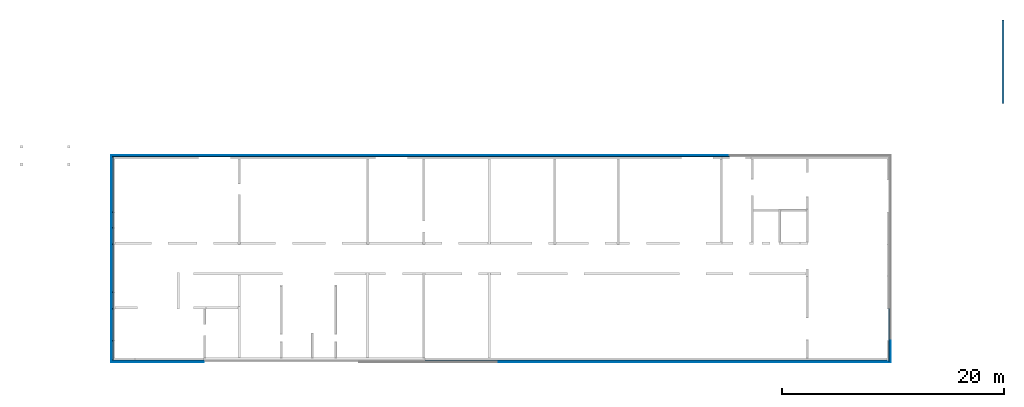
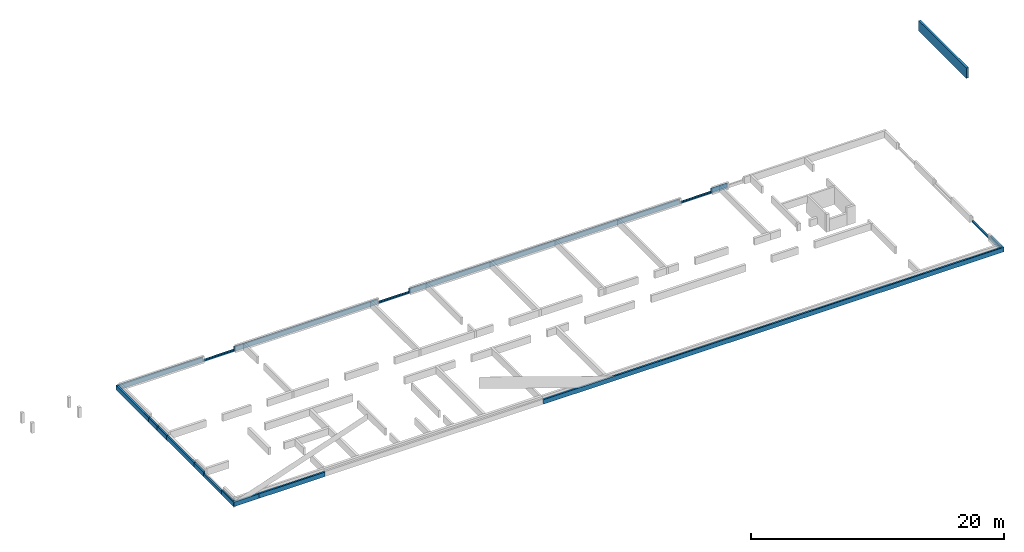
# One storey, part 6 of 7: 37 building element parts, 1 wall, 19 elements without a shape of their own.
"""IFC2X3 building model written with IfcOpenShell, lengths in millimetres."""

import ifcopenshell
import ifcopenshell.guid

model = None  # the IFC model being written
_history = None  # IfcOwnerHistory: only IFC2X3 demands one
_inside = {}  # id of a spatial element -> (the spatial element, [elements in it])
_under = {}  # id of a project, library or spatial element -> (it, [spatial elements below it])
_declared = {}  # id of a project -> (the project, [libraries it declares])
_typed = {}  # id of a type object -> (the type object, [elements of that type])
_made_of = {}  # id of a material, layer set ... -> (it, [elements and type objects made of it])


def new_model(schema):
    """Start an empty IFC model of exactly this schema.

    Asked for "IFC4X3", IfcOpenShell would pick the latest addendum, in which some entities
    have other attributes; the version numbers below select the first issue.
    IFC2X3 requires an IfcOwnerHistory on every rooted entity: one is made here for all.
    """
    global model, _history
    if schema == "IFC4X3":
        model = ifcopenshell.file(schema_version=(4, 3, 0, 0))
    else:
        model = ifcopenshell.file(schema=schema)
    _inside.clear()
    _under.clear()
    _declared.clear()
    _typed.clear()
    _made_of.clear()
    _history = None
    if model.schema == "IFC2X3":
        org = make("IfcOrganization", Name="unknown")
        user = make(
            "IfcPersonAndOrganization",
            ThePerson=make("IfcPerson", FamilyName="unknown"),
            TheOrganization=org,
        )
        app = make(
            "IfcApplication",
            ApplicationDeveloper=org,
            Version="unknown",
            ApplicationFullName="unknown",
            ApplicationIdentifier="unknown",
        )
        _history = make(
            "IfcOwnerHistory",
            OwningUser=user,
            OwningApplication=app,
            ChangeAction="ADDED",
            CreationDate=0,
        )
    return model


def make(cls, **values):
    """One entity of the class cls with the attributes given. An attribute that is None is left unset."""
    return model.create_entity(
        cls, **{name: value for name, value in values.items() if value is not None}
    )


def entity(cls, *values):
    """Any entity or typed value of the class cls, its attributes in the order of the schema. None: left unset."""
    e = model.create_entity(cls)
    for i, value in enumerate(values):
        if value is not None:
            e[i] = value
    return e


def rooted(cls, **values):
    """An entity with a GlobalId (a new one), such as an element, a storey or a relation."""
    return make(cls, GlobalId=ifcopenshell.guid.new(), OwnerHistory=_history, **values)


def si_unit(unit_type, name, prefix=None):
    """IfcSIUnit, for example si_unit("LENGTHUNIT", "METRE", prefix="MILLI")."""
    return make("IfcSIUnit", UnitType=unit_type, Prefix=prefix, Name=name)


def converted_unit(unit_type, name, factor, base, dimensions=None, offset=None):
    """IfcConversionBasedUnit, such as the inch: factor (a typed value) times the base unit."""
    return make(
        "IfcConversionBasedUnit"
        if offset is None
        else "IfcConversionBasedUnitWithOffset",
        ConversionOffset=offset,
        Dimensions=None
        if dimensions is None
        else entity("IfcDimensionalExponents", *dimensions),
        UnitType=unit_type,
        Name=name,
        ConversionFactor=make(
            "IfcMeasureWithUnit", ValueComponent=factor, UnitComponent=base
        ),
    )


def derived_unit(unit_type, elements):
    """IfcDerivedUnit: a product of units, each with its exponent."""
    return make(
        "IfcDerivedUnit",
        Elements=[
            make("IfcDerivedUnitElement", Unit=unit, Exponent=power)
            for unit, power in elements
        ],
        UnitType=unit_type,
    )


def money_unit(currency):
    """IfcMonetaryUnit."""
    return make("IfcMonetaryUnit", Currency=currency)


def assignment(units):
    """IfcUnitAssignment: the units of a project."""
    return None if units is None else make("IfcUnitAssignment", Units=units)


def point(xyz):
    """IfcCartesianPoint."""
    return None if xyz is None else make("IfcCartesianPoint", Coordinates=xyz)


def direction(xyz):
    """IfcDirection."""
    return None if xyz is None else make("IfcDirection", DirectionRatios=xyz)


def frame(location, z_axis=None, x_axis=None):
    """IfcAxis2Placement3D, a coordinate frame: its origin and axes. An axis left out is left unset."""
    return make(
        "IfcAxis2Placement3D",
        Location=point(location),
        Axis=direction(z_axis),
        RefDirection=direction(x_axis),
    )


def origin_with_axes():
    """The frame at (0, 0, 0) with the z axis (0, 0, 1) and the x axis (1, 0, 0) written out."""
    return frame((0.0, 0.0, 0.0), z_axis=(0.0, 0.0, 1.0), x_axis=(1.0, 0.0, 0.0))


def place(relative_to, where):
    """IfcLocalPlacement: puts the frame where relative to a parent placement (None: the world)."""
    return make(
        "IfcLocalPlacement", PlacementRelTo=relative_to, RelativePlacement=where
    )


def context(
    kind, dimensions, precision=None, world=None, true_north=None, identifier=None
):
    """IfcGeometricRepresentationContext, for example the 3D "Model" context."""
    return make(
        "IfcGeometricRepresentationContext",
        ContextIdentifier=identifier,
        ContextType=kind,
        CoordinateSpaceDimension=dimensions,
        Precision=precision,
        WorldCoordinateSystem=world,
        TrueNorth=true_north,
    )


def subcontext(parent, identifier, kind, view, scale=None):
    """IfcGeometricRepresentationSubContext, for example "Body" below "Model"."""
    return make(
        "IfcGeometricRepresentationSubContext",
        ContextIdentifier=identifier,
        ContextType=kind,
        ParentContext=parent,
        TargetScale=scale,
        TargetView=view,
    )


def project(units=None, contexts=None):
    """IfcProject with its units and contexts."""
    return rooted(
        "IfcProject",
        Name="project",
        RepresentationContexts=contexts,
        UnitsInContext=assignment(units),
    )


def spatial(cls, under=None, at=None, **own):
    """A site, building, storey or space (cls), placed at a placement, below another one or the project."""
    s = rooted(cls, ObjectPlacement=at, **own)
    if under is not None:
        _under.setdefault(under.id(), (under, []))[1].append(s)
    return s


def faces_of(points, faces, orient=None, outer=None):
    """IfcFace entities. A face is a list of loops; a loop is a list of indices into points, from 0.

    orient and outer hold one flag for each loop. By default every Orientation is true, the
    first loop of a face is its IfcFaceOuterBound and the others are IfcFaceBound.
    """
    made = []
    for i, loops in enumerate(faces):
        bounds = []
        for j, loop in enumerate(loops):
            is_outer = j == 0 if outer is None else outer[i][j]
            bounds.append(
                make(
                    "IfcFaceOuterBound" if is_outer else "IfcFaceBound",
                    Bound=make("IfcPolyLoop", Polygon=[points[k] for k in loop]),
                    Orientation=True if orient is None else orient[i][j],
                )
            )
        made.append(make("IfcFace", Bounds=bounds))
    return made


def faceted_brep(points, faces, orient=None, outer=None, voids=None):
    """IfcFacetedBrep: a solid bounded by flat faces; with voids (closed shells), ...WithVoids."""
    shared = [point(p) for p in points]
    hull = make("IfcClosedShell", CfsFaces=faces_of(shared, faces, orient, outer))
    if voids is None:
        return make("IfcFacetedBrep", Outer=hull)
    return make(
        "IfcFacetedBrepWithVoids",
        Outer=hull,
        Voids=[
            make(cls, CfsFaces=faces_of(shared, fs, o, b)) for cls, fs, o, b in voids
        ],
    )


def shape(context_of_items, identifier, shape_type, items):
    """IfcShapeRepresentation: the items that make up one representation, for example the "Body"."""
    return make(
        "IfcShapeRepresentation",
        ContextOfItems=context_of_items,
        RepresentationIdentifier=identifier,
        RepresentationType=shape_type,
        Items=items,
    )


def material(Name=None, Category=None):
    """IfcMaterial."""
    return make("IfcMaterial", Name=Name, Category=Category)


def made_of(thing, what):
    """Note that an element or type object is made of a material, layer set ...; save() writes the relation."""
    if what is not None:
        _made_of.setdefault(what.id(), (what, []))[1].append(thing)
    return thing


def type_object(cls, material=None, **own):
    """A type object (cls), such as IfcWallType, which elements share."""
    return made_of(rooted(cls, **own), material)


def element(
    cls,
    number,
    at=None,
    inside=None,
    cuts=None,
    type_object=None,
    material=None,
    context=None,
    identifier="Body",
    shape_type=None,
    held_by="IfcProductDefinitionShape",
    body=None,
    shapes=None,
    **own,
):
    """One element of the class cls, such as IfcWall. Its Tag is "e" and its number.

    at: its placement. inside: the storey or other place that contains it. cuts: it is an
    opening in that element (IfcRelVoidsElement). A single representation is given by context,
    identifier, shape_type and body (its items); several are given by shapes. held_by: the class
    of the entity that holds the representations. save() writes the other relations.
    """
    e = rooted(cls, Tag="e%d" % number, ObjectPlacement=at, **own)
    if body is not None:
        shapes = [shape(context, identifier, shape_type, body)]
    if shapes is not None:
        e.Representation = make(held_by, Representations=shapes)
    if inside is not None:
        _inside.setdefault(inside.id(), (inside, []))[1].append(e)
    if cuts is not None:
        rooted(
            "IfcRelVoidsElement", RelatingBuildingElement=cuts, RelatedOpeningElement=e
        )
    if type_object is not None:
        _typed.setdefault(type_object.id(), (type_object, []))[1].append(e)
    return made_of(e, material)


def aggregate(whole, parts):
    """IfcRelAggregates: a whole, such as a stair, and the parts it consists of."""
    return rooted("IfcRelAggregates", RelatingObject=whole, RelatedObjects=parts)


def save(model, path):
    """Write the relations noted so far, then the file.

    IfcRelAggregates (storeys below a building ...), IfcRelContainedInSpatialStructure (elements
    in a storey), IfcRelDefinesByType, IfcRelAssociatesMaterial and IfcRelDeclares: one each for
    every whole, place, type object, material and project.
    """
    for whole, parts in _under.values():
        aggregate(whole, parts)
    for where, things in _inside.values():
        rooted(
            "IfcRelContainedInSpatialStructure",
            RelatedElements=things,
            RelatingStructure=where,
        )
    for kind, things in _typed.values():
        rooted("IfcRelDefinesByType", RelatedObjects=things, RelatingType=kind)
    for what, things in _made_of.values():
        rooted("IfcRelAssociatesMaterial", RelatedObjects=things, RelatingMaterial=what)
    for by, libraries in _declared.values():
        rooted("IfcRelDeclares", RelatingContext=by, RelatedDefinitions=libraries)
    model.write(path)


model = new_model("IFC2X3")

# Units and contexts
model_context = context("Model", 3, precision=0.01, world=origin_with_axes(), true_north=direction((0.0, 1.0)))
body_context = subcontext(model_context, "Body", "Model", "MODEL_VIEW")
ifc_project = project(units=[si_unit("LENGTHUNIT", "METRE", prefix="MILLI"), si_unit("AREAUNIT", "SQUARE_METRE"), si_unit("VOLUMEUNIT", "CUBIC_METRE"), converted_unit("PLANEANGLEUNIT", "DEGREE", entity("IfcPlaneAngleMeasure", 0.0174532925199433), si_unit("PLANEANGLEUNIT", "RADIAN"), dimensions=[0, 0, 0, 0, 0, 0, 0]), money_unit("EUR"), converted_unit("TIMEUNIT", "Year", entity("IfcTimeMeasure", 31556926.0), si_unit("TIMEUNIT", "SECOND"), dimensions=[0, 0, 1, 0, 0, 0, 0]), si_unit("MASSUNIT", "GRAM", prefix="KILO"), si_unit("THERMODYNAMICTEMPERATUREUNIT", "DEGREE_CELSIUS"), si_unit("LUMINOUSINTENSITYUNIT", "LUMEN"), si_unit("ENERGYUNIT", "JOULE", prefix="MEGA"), derived_unit("THERMALCONDUCTANCEUNIT", [(si_unit("POWERUNIT", "WATT"), 1), (si_unit("LENGTHUNIT", "METRE"), -1), (si_unit("THERMODYNAMICTEMPERATUREUNIT", "KELVIN"), -1)]), derived_unit("SPECIFICHEATCAPACITYUNIT", [(si_unit("ENERGYUNIT", "JOULE"), 1), (si_unit("MASSUNIT", "GRAM", prefix="KILO"), -1), (si_unit("THERMODYNAMICTEMPERATUREUNIT", "KELVIN"), -1)]), derived_unit("MASSDENSITYUNIT", [(si_unit("MASSUNIT", "GRAM", prefix="KILO"), 1), (si_unit("VOLUMEUNIT", "CUBIC_METRE"), -1)])], contexts=[model_context])

# Site, building, storey
site_placement = place(None, origin_with_axes())
site = spatial("IfcSite", under=ifc_project, at=site_placement, Name="ÜBN Kinnistu Nimi -> SOLIBRI", CompositionType="ELEMENT")
building_placement = place(site_placement, origin_with_axes())
building = spatial("IfcBuilding", under=site, at=building_placement, Name="METK ARETUSKESKUS II", CompositionType="ELEMENT")
storey_placement = place(building_placement, frame((0.0, 0.0, -1610.0), z_axis=(0.0, 0.0, 1.0), x_axis=(1.0, 0.0, 0.0)))
storey = spatial("IfcBuildingStorey", under=building, at=storey_placement, Name="Vundament", CompositionType="ELEMENT", Elevation=-1610.0)

# Wall
ifc_material_1 = material(Name="30 Konst: Raudbetoon monoliitne")
wall_type_1 = type_object("IfcWallType", Name="VS-10 190", PredefinedType="NOTDEFINED")
wall_1_placement = place(storey_placement, frame((100030.0033848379, 42969.99438087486, 410.0000000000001), z_axis=(0.0, 0.0, 1.0), x_axis=(0.0, 1.0, 0.0)))
element("IfcWall", 1, at=wall_1_placement, inside=storey, type_object=wall_type_1, material=ifc_material_1, Name="VS-10", context=body_context, shape_type="Brep", body=[
    faceted_brep([(0.0, 94.99999999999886, 1000.0), (0.0, -94.99999999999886, 1000.0), (7535.004241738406, -94.99999999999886, 1000.0), (7535.004241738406, 94.99999999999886, 1000.0), (0.0, 94.99999999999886, 0.0), (0.0, -94.99999999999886, 0.0), (7535.004241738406, -94.99999999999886, 0.0), (7535.004241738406, 94.99999999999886, 0.0)], [[[0, 1, 2, 3]], [[0, 4, 5, 1]], [[1, 5, 6, 2]], [[6, 7, 3, 2]], [[4, 0, 3, 7]], [[5, 4, 7, 6]]]),
])

# Wall, building element parts
wall_type_2 = type_object("IfcWallType", Name="VS-02_KURMIK 160", PredefinedType="NOTDEFINED")
wall_2_placement = place(storey_placement, frame((19840.00000000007, 24480.0000000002, 1330.0), z_axis=(0.0, 0.0, 1.0), x_axis=(0.0, -1.0, 0.0)))
wall_2 = element("IfcWall", 2, at=wall_2_placement, inside=storey, type_object=wall_type_2, Name="VS-02")
ifc_material_2 = material(Name="50 Soojustus: EPS")
building_element_part_1_placement = place(wall_2_placement, origin_with_axes())
building_element_part_1 = element("IfcBuildingElementPart", 3, at=building_element_part_1_placement, material=ifc_material_2, Name="50 Soojustus: EPS", context=body_context, shape_type="Brep", body=[
    faceted_brep([(2860.0, 0.0, 0.0), (2860.0, -150.0000000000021, 0.0), (0.0, -149.9999999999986, 0.0), (0.0, 0.0, 0.0), (2860.0, 0.0, 280.0), (2860.0, -149.9999999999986, 280.0), (0.0, -149.9999999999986, 280.0), (0.0, 0.0, 280.0)], [[[0, 1, 2, 3]], [[0, 4, 5, 1]], [[1, 5, 6, 2]], [[3, 2, 6, 7]], [[4, 0, 3, 7]], [[5, 4, 7, 6]]]),
])
ifc_material_3 = material(Name="92 Viim: betoonlasuur")
building_element_part_2_placement = place(wall_2_placement, origin_with_axes())
building_element_part_2 = element("IfcBuildingElementPart", 4, at=building_element_part_2_placement, material=ifc_material_3, Name="92 Viim: betoonlasuur", context=body_context, shape_type="Brep", body=[
    faceted_brep([(2860.0, -150.0000000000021, 0.0), (2860.0, -160.0000000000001, 0.0), (0.0, -160.0000000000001, 0.0), (0.0, -149.9999999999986, 0.0), (2860.0, -149.9999999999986, 280.0), (2860.0, -160.0000000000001, 280.0), (0.0, -160.0000000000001, 280.0), (0.0, -149.9999999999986, 280.0)], [[[0, 1, 2, 3]], [[0, 4, 5, 1]], [[1, 5, 6, 2]], [[3, 2, 6, 7]], [[4, 0, 3, 7]], [[5, 4, 7, 6]]]),
])
aggregate(wall_2, [building_element_part_1, building_element_part_2])

wall_3_placement = place(storey_placement, frame((19840.00000000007, 38160.00000699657, 1330.0), z_axis=(0.0, 0.0, 1.0), x_axis=(0.0, -1.0, 0.0)))
wall_3 = element("IfcWall", 5, at=wall_3_placement, inside=storey, type_object=wall_type_2, Name="VS-02")
building_element_part_3_placement = place(wall_3_placement, origin_with_axes())
building_element_part_3 = element("IfcBuildingElementPart", 6, at=building_element_part_3_placement, material=ifc_material_2, Name="50 Soojustus: EPS", context=body_context, shape_type="Brep", body=[
    faceted_brep([(4979.999946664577, 0.0, 0.0), (4979.999946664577, -150.0000000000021, 0.0), (0.0, -149.9999999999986, 0.0), (0.0, 0.0, 0.0), (4979.999946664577, 0.0, 435.0004703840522), (4979.999946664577, -150.0000000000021, 435.0004703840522), (0.0, -149.9999999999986, 435.0004703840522), (0.0, 0.0, 435.0004703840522)], [[[0, 1, 2, 3]], [[0, 4, 5, 1]], [[1, 5, 6, 2]], [[3, 2, 6, 7]], [[4, 0, 3, 7]], [[5, 4, 7, 6]]]),
])
building_element_part_4_placement = place(wall_3_placement, origin_with_axes())
building_element_part_4 = element("IfcBuildingElementPart", 7, at=building_element_part_4_placement, material=ifc_material_3, Name="92 Viim: betoonlasuur", context=body_context, shape_type="Brep", body=[
    faceted_brep([(4979.999946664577, -150.0000000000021, 0.0), (4979.999946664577, -160.0000000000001, 0.0), (-149.9999999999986, -160.0000000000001, 0.0), (-149.9999999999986, -149.9999999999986, 0.0), (4979.999946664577, -150.0000000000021, 435.0004703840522), (4979.999946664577, -160.0000000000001, 435.0004703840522), (-149.9999999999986, -160.0000000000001, 435.0004703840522), (-149.9999999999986, -149.9999999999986, 435.0004703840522)], [[[0, 1, 2, 3]], [[0, 4, 5, 1]], [[1, 5, 6, 2]], [[3, 2, 6, 7]], [[4, 0, 3, 7]], [[5, 4, 7, 6]]]),
])
aggregate(wall_3, [building_element_part_3, building_element_part_4])

wall_4_placement = place(storey_placement, frame((19840.00000000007, 30279.99997727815, 1330.0), z_axis=(0.0, 0.0, 1.0), x_axis=(0.0, -1.0, 0.0)))
wall_4 = element("IfcWall", 8, at=wall_4_placement, inside=storey, type_object=wall_type_2, Name="VS-02")
building_element_part_5_placement = place(wall_4_placement, origin_with_axes())
building_element_part_5 = element("IfcBuildingElementPart", 9, at=building_element_part_5_placement, material=ifc_material_3, Name="92 Viim: betoonlasuur", context=body_context, shape_type="Brep", body=[
    faceted_brep([(4309.999999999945, -150.0000000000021, 0.0), (4309.999999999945, -160.0000000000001, 0.0), (0.0, -160.0000000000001, 0.0), (0.0, -149.9999999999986, 0.0), (4309.999999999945, -150.0000000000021, 435.0004703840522), (4309.999999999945, -160.0000000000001, 435.0004703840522), (0.0, -160.0000000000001, 435.0004703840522), (0.0, -149.9999999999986, 435.0004703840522)], [[[0, 1, 2, 3]], [[0, 4, 5, 1]], [[1, 5, 6, 2]], [[3, 2, 6, 7]], [[4, 0, 3, 7]], [[5, 4, 7, 6]]]),
])
building_element_part_6_placement = place(wall_4_placement, origin_with_axes())
building_element_part_6 = element("IfcBuildingElementPart", 10, at=building_element_part_6_placement, material=ifc_material_2, Name="50 Soojustus: EPS", context=body_context, shape_type="Brep", body=[
    faceted_brep([(4309.999999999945, 0.0, 0.0), (4309.999999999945, -150.0000000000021, 0.0), (0.0, -149.9999999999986, 0.0), (0.0, 0.0, 0.0), (4309.999999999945, 0.0, 435.0004703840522), (4309.999999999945, -150.0000000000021, 435.0004703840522), (0.0, -149.9999999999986, 435.0004703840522), (0.0, 0.0, 435.0004703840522)], [[[0, 1, 2, 3]], [[0, 4, 5, 1]], [[1, 5, 6, 2]], [[3, 2, 6, 7]], [[4, 0, 3, 7]], [[5, 4, 7, 6]]]),
])
aggregate(wall_4, [building_element_part_5, building_element_part_6])

wall_5_placement = place(storey_placement, frame((19840.00000000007, 21620.0000000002, 1330.0), z_axis=(0.0, 0.0, 1.0), x_axis=(0.0, -1.0, 0.0)))
wall_5 = element("IfcWall", 11, at=wall_5_placement, inside=storey, type_object=wall_type_2, Name="VS-02")
building_element_part_7_placement = place(wall_5_placement, origin_with_axes())
building_element_part_7 = element("IfcBuildingElementPart", 12, at=building_element_part_7_placement, material=ifc_material_3, Name="92 Viim: betoonlasuur", context=body_context, shape_type="Brep", body=[
    faceted_brep([(1930.000000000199, -160.0000000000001, 0.0), (0.0, -160.0000000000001, 0.0), (0.0, -149.9999999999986, 0.0), (1930.000000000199, -149.9999999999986, 0.0), (1930.000000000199, -160.0000000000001, 435.0004703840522), (0.0, -160.0000000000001, 435.0004703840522), (0.0, -149.9999999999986, 435.0004703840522), (1930.000000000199, -149.9999999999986, 435.0004703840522)], [[[0, 1, 2, 3]], [[4, 5, 1, 0]], [[2, 1, 5, 6]], [[3, 2, 6, 7]], [[3, 7, 4, 0]], [[7, 6, 5, 4]]]),
])
building_element_part_8_placement = place(wall_5_placement, origin_with_axes())
building_element_part_8 = element("IfcBuildingElementPart", 13, at=building_element_part_8_placement, material=ifc_material_2, Name="50 Soojustus: EPS", context=body_context, shape_type="Brep", body=[
    faceted_brep([(1780.0000000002, -149.9999999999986, 0.0), (0.0, -149.9999999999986, 0.0), (0.0, 0.0, 0.0), (1780.0000000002, 0.0, 0.0), (1780.0000000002, -149.9999999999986, 435.0004703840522), (0.0, -149.9999999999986, 435.0004703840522), (0.0, 0.0, 435.0004703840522), (1780.0000000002, 0.0, 435.0004703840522)], [[[0, 1, 2, 3]], [[4, 5, 1, 0]], [[2, 1, 5, 6]], [[3, 2, 6, 7]], [[3, 7, 4, 0]], [[7, 6, 5, 4]]]),
])
aggregate(wall_5, [building_element_part_7, building_element_part_8])

wall_6_placement = place(storey_placement, frame((47940.00000288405, 19840.0, 1330.0), z_axis=(0.0, 0.0, 1.0), x_axis=(1.0, 0.0, 0.0)))
wall_6 = element("IfcWall", 14, at=wall_6_placement, inside=storey, type_object=wall_type_2, Name="VS-02")
building_element_part_9_placement = place(wall_6_placement, origin_with_axes())
building_element_part_9 = element("IfcBuildingElementPart", 15, at=building_element_part_9_placement, material=ifc_material_2, Name="50 Soojustus: EPS", context=body_context, shape_type="Brep", body=[
    faceted_brep([(41819.99990995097, -149.9999999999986, 0.0), (0.0, -149.9999999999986, 0.0), (0.0, 0.0, 0.0), (41819.99990995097, 0.0, 0.0), (41819.99990995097, -149.9999999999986, 435.0004703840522), (0.0, -149.9999999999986, 435.0004703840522), (0.0, 0.0, 435.0004703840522), (41819.99990995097, 0.0, 435.0004703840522)], [[[0, 1, 2, 3]], [[4, 5, 1, 0]], [[2, 1, 5, 6]], [[3, 2, 6, 7]], [[3, 7, 4, 0]], [[7, 6, 5, 4]]]),
])
building_element_part_10_placement = place(wall_6_placement, origin_with_axes())
building_element_part_10 = element("IfcBuildingElementPart", 16, at=building_element_part_10_placement, material=ifc_material_3, Name="92 Viim: betoonlasuur", context=body_context, shape_type="Brep", body=[
    faceted_brep([(41969.99990995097, -159.9999999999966, 0.0), (0.0, -160.0000000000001, 0.0), (0.0, -149.9999999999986, 0.0), (41969.99990995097, -149.9999999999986, 0.0), (41969.99990995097, -159.9999999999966, 435.0004703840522), (0.0, -160.0000000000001, 435.0004703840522), (0.0, -149.9999999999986, 435.0004703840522), (41969.99990995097, -149.9999999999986, 435.0004703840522)], [[[0, 1, 2, 3]], [[4, 5, 1, 0]], [[2, 1, 5, 6]], [[3, 2, 6, 7]], [[3, 7, 4, 0]], [[7, 6, 5, 4]]]),
])
aggregate(wall_6, [building_element_part_9, building_element_part_10])

wall_7_placement = place(storey_placement, frame((73910.00689297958, 38160.00000699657, 1330.0), z_axis=(0.0, 0.0, 1.0), x_axis=(-1.0, 0.0, 0.0)))
wall_7 = element("IfcWall", 17, at=wall_7_placement, inside=storey, type_object=wall_type_2, Name="VS-02")
building_element_part_11_placement = place(wall_7_placement, origin_with_axes())
building_element_part_11 = element("IfcBuildingElementPart", 18, at=building_element_part_11_placement, material=ifc_material_2, Name="50 Soojustus: EPS", context=body_context, shape_type="Brep", body=[
    faceted_brep([(2860.006892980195, 0.0, 0.0), (2860.006892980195, -149.9999999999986, 0.0), (0.0, -149.9999999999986, 0.0), (0.0, 0.0, 0.0), (2860.006892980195, 0.0, 129.9999999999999), (2860.006892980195, -149.9999999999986, 129.9999999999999), (0.0, -149.9999999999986, 129.9999999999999), (0.0, 0.0, 129.9999999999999)], [[[0, 1, 2, 3]], [[0, 4, 5, 1]], [[1, 5, 6, 2]], [[3, 2, 6, 7]], [[4, 0, 3, 7]], [[5, 4, 7, 6]]]),
])
building_element_part_12_placement = place(wall_7_placement, origin_with_axes())
building_element_part_12 = element("IfcBuildingElementPart", 19, at=building_element_part_12_placement, material=ifc_material_3, Name="92 Viim: betoonlasuur", context=body_context, shape_type="Brep", body=[
    faceted_brep([(2860.006892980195, -149.9999999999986, 0.0), (2860.006892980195, -160.0000000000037, 0.0), (0.0, -159.9999999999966, 0.0), (0.0, -149.9999999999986, 0.0), (2860.006892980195, -149.9999999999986, 129.9999999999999), (2860.006892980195, -160.0000000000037, 129.9999999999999), (0.0, -159.9999999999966, 129.9999999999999), (0.0, -149.9999999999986, 129.9999999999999)], [[[0, 1, 2, 3]], [[0, 4, 5, 1]], [[1, 5, 6, 2]], [[3, 2, 6, 7]], [[4, 0, 3, 7]], [[5, 4, 7, 6]]]),
])
aggregate(wall_7, [building_element_part_11, building_element_part_12])

wall_8_placement = place(storey_placement, frame((22000.0, 19840.0, 1330.0), z_axis=(0.0, 0.0, 1.0), x_axis=(1.0, 0.0, 0.0)))
wall_8 = element("IfcWall", 20, at=wall_8_placement, inside=storey, type_object=wall_type_2, Name="VS-02")
building_element_part_13_placement = place(wall_8_placement, origin_with_axes())
building_element_part_13 = element("IfcBuildingElementPart", 21, at=building_element_part_13_placement, material=ifc_material_2, Name="50 Soojustus: EPS", context=body_context, shape_type="Brep", body=[
    faceted_brep([(6010.000001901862, 0.0, 0.0), (6010.000001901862, -149.9999999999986, 0.0), (0.0, -149.9999999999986, 0.0), (0.0, 0.0, 0.0), (6010.000001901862, 0.0, 435.0004703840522), (6010.000001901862, -149.9999999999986, 435.0004703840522), (0.0, -149.9999999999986, 435.0004703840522), (0.0, 0.0, 435.0004703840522)], [[[0, 1, 2, 3]], [[0, 4, 5, 1]], [[1, 5, 6, 2]], [[3, 2, 6, 7]], [[4, 0, 3, 7]], [[5, 4, 7, 6]]]),
])
building_element_part_14_placement = place(wall_8_placement, origin_with_axes())
building_element_part_14 = element("IfcBuildingElementPart", 22, at=building_element_part_14_placement, material=ifc_material_3, Name="92 Viim: betoonlasuur", context=body_context, shape_type="Brep", body=[
    faceted_brep([(6010.000001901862, -149.9999999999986, 0.0), (6010.000001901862, -160.0000000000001, 0.0), (0.0, -160.0000000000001, 0.0), (0.0, -149.9999999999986, 0.0), (6010.000001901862, -149.9999999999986, 435.0004703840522), (6010.000001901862, -160.0000000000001, 435.0004703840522), (0.0, -160.0000000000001, 435.0004703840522), (0.0, -149.9999999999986, 435.0004703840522)], [[[0, 1, 2, 3]], [[0, 4, 5, 1]], [[1, 5, 6, 2]], [[3, 2, 6, 7]], [[4, 0, 3, 7]], [[5, 4, 7, 6]]]),
])
aggregate(wall_8, [building_element_part_13, building_element_part_14])

wall_9_placement = place(storey_placement, frame((19840.00000000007, 31770.13961946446, 1330.0), z_axis=(0.0, 0.0, 1.0), x_axis=(0.0, -1.0, 0.0)))
wall_9 = element("IfcWall", 23, at=wall_9_placement, inside=storey, type_object=wall_type_2, Name="VS-02")
building_element_part_15_placement = place(wall_9_placement, origin_with_axes())
building_element_part_15 = element("IfcBuildingElementPart", 24, at=building_element_part_15_placement, material=ifc_material_2, Name="50 Soojustus: EPS", context=body_context, shape_type="Brep", body=[
    faceted_brep([(1490.139642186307, 0.0, 0.0), (1490.139642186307, -149.9999999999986, 0.0), (0.0, -149.9999999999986, 0.0), (0.0, 0.0, 0.0), (1490.139642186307, 0.0, 435.0004703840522), (1490.139642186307, -149.9999999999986, 435.0004703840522), (0.0, -149.9999999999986, 435.0004703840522), (0.0, 0.0, 435.0004703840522)], [[[0, 1, 2, 3]], [[0, 4, 5, 1]], [[1, 5, 6, 2]], [[3, 2, 6, 7]], [[4, 0, 3, 7]], [[5, 4, 7, 6]]]),
])
building_element_part_16_placement = place(wall_9_placement, origin_with_axes())
building_element_part_16 = element("IfcBuildingElementPart", 25, at=building_element_part_16_placement, material=ifc_material_3, Name="92 Viim: betoonlasuur", context=body_context, shape_type="Brep", body=[
    faceted_brep([(1490.139642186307, -149.9999999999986, 0.0), (1490.139642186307, -160.0000000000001, 0.0), (0.0, -160.0000000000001, 0.0), (0.0, -149.9999999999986, 0.0), (1490.139642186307, -149.9999999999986, 435.0004703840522), (1490.139642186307, -160.0000000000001, 435.0004703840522), (0.0, -160.0000000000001, 435.0004703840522), (0.0, -149.9999999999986, 435.0004703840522)], [[[0, 1, 2, 3]], [[0, 4, 5, 1]], [[1, 5, 6, 2]], [[3, 2, 6, 7]], [[4, 0, 3, 7]], [[5, 4, 7, 6]]]),
])
aggregate(wall_9, [building_element_part_15, building_element_part_16])

wall_10_placement = place(storey_placement, frame((46360.00690052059, 38160.00000699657, 1330.0), z_axis=(0.0, 0.0, 1.0), x_axis=(-1.0, 0.0, 0.0)))
wall_10 = element("IfcWall", 26, at=wall_10_placement, inside=storey, type_object=wall_type_2, Name="VS-02")
building_element_part_17_placement = place(wall_10_placement, origin_with_axes())
building_element_part_17 = element("IfcBuildingElementPart", 27, at=building_element_part_17_placement, material=ifc_material_2, Name="50 Soojustus: EPS", context=body_context, shape_type="Brep", body=[
    faceted_brep([(2860.000000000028, 0.0, 0.0), (2860.000000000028, -149.9999999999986, 0.0), (0.0, -149.9999999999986, 0.0), (0.0, 0.0, 0.0), (2860.000000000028, 0.0, 129.9999999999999), (2860.000000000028, -149.9999999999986, 129.9999999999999), (0.0, -149.9999999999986, 129.9999999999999), (0.0, 0.0, 129.9999999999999)], [[[0, 1, 2, 3]], [[0, 4, 5, 1]], [[1, 5, 6, 2]], [[3, 2, 6, 7]], [[4, 0, 3, 7]], [[5, 4, 7, 6]]]),
])
building_element_part_18_placement = place(wall_10_placement, origin_with_axes())
building_element_part_18 = element("IfcBuildingElementPart", 28, at=building_element_part_18_placement, material=ifc_material_3, Name="92 Viim: betoonlasuur", context=body_context, shape_type="Brep", body=[
    faceted_brep([(2860.000000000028, -149.9999999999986, 0.0), (2860.000000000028, -160.0000000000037, 0.0), (0.0, -159.9999999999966, 0.0), (0.0, -149.9999999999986, 0.0), (2860.000000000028, -149.9999999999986, 129.9999999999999), (2860.000000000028, -160.0000000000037, 129.9999999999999), (0.0, -159.9999999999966, 129.9999999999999), (0.0, -149.9999999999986, 129.9999999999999)], [[[0, 1, 2, 3]], [[0, 4, 5, 1]], [[1, 5, 6, 2]], [[3, 2, 6, 7]], [[4, 0, 3, 7]], [[5, 4, 7, 6]]]),
])
aggregate(wall_10, [building_element_part_17, building_element_part_18])

wall_11_placement = place(storey_placement, frame((43500.00690052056, 38160.00000699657, 1330.0), z_axis=(0.0, 0.0, 1.0), x_axis=(-1.0, 0.0, 0.0)))
wall_11 = element("IfcWall", 29, at=wall_11_placement, inside=storey, type_object=wall_type_2, Name="VS-02")
building_element_part_19_placement = place(wall_11_placement, origin_with_axes())
building_element_part_19 = element("IfcBuildingElementPart", 30, at=building_element_part_19_placement, material=ifc_material_2, Name="50 Soojustus: EPS", context=body_context, shape_type="Brep", body=[
    faceted_brep([(13090.00690052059, 0.0, 0.0), (13090.00690052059, -149.9999999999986, 0.0), (0.0, -149.9999999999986, 0.0), (0.0, 0.0, 0.0), (13090.00690052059, 0.0, 435.0004703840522), (13090.00690052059, -149.9999999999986, 435.0004703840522), (0.0, -149.9999999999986, 435.0004703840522), (0.0, 0.0, 435.0004703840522)], [[[0, 1, 2, 3]], [[0, 4, 5, 1]], [[1, 5, 6, 2]], [[3, 2, 6, 7]], [[4, 0, 3, 7]], [[5, 4, 7, 6]]]),
])
building_element_part_20_placement = place(wall_11_placement, origin_with_axes())
building_element_part_20 = element("IfcBuildingElementPart", 31, at=building_element_part_20_placement, material=ifc_material_3, Name="92 Viim: betoonlasuur", context=body_context, shape_type="Brep", body=[
    faceted_brep([(13090.00690052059, -149.9999999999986, 0.0), (13090.00690052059, -160.0000000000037, 0.0), (0.0, -159.9999999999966, 0.0), (0.0, -149.9999999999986, 0.0), (13090.00690052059, -149.9999999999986, 435.0004703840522), (13090.00690052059, -160.0000000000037, 435.0004703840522), (0.0, -159.9999999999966, 435.0004703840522), (0.0, -149.9999999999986, 435.0004703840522)], [[[0, 1, 2, 3]], [[0, 4, 5, 1]], [[1, 5, 6, 2]], [[3, 2, 6, 7]], [[4, 0, 3, 7]], [[5, 4, 7, 6]]]),
])
aggregate(wall_11, [building_element_part_19, building_element_part_20])

wall_12_placement = place(storey_placement, frame((71049.99999999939, 38160.00000699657, 1330.0), z_axis=(0.0, 0.0, 1.0), x_axis=(-1.0, 0.0, 0.0)))
wall_12 = element("IfcWall", 32, at=wall_12_placement, inside=storey, type_object=wall_type_2, Name="VS-02")
building_element_part_21_placement = place(wall_12_placement, origin_with_axes())
building_element_part_21 = element("IfcBuildingElementPart", 33, at=building_element_part_21_placement, material=ifc_material_3, Name="92 Viim: betoonlasuur", context=body_context, shape_type="Brep", body=[
    faceted_brep([(24689.9930994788, -149.9999999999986, 0.0), (24689.9930994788, -160.0000000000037, 0.0), (0.0, -159.9999999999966, 0.0), (0.0, -149.9999999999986, 0.0), (24689.9930994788, -149.9999999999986, 435.0004703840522), (24689.9930994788, -160.0000000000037, 435.0004703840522), (0.0, -159.9999999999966, 435.0004703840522), (0.0, -149.9999999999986, 435.0004703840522)], [[[0, 1, 2, 3]], [[0, 4, 5, 1]], [[1, 5, 6, 2]], [[3, 2, 6, 7]], [[4, 0, 3, 7]], [[5, 4, 7, 6]]]),
])
building_element_part_22_placement = place(wall_12_placement, origin_with_axes())
building_element_part_22 = element("IfcBuildingElementPart", 34, at=building_element_part_22_placement, material=ifc_material_2, Name="50 Soojustus: EPS", context=body_context, shape_type="Brep", body=[
    faceted_brep([(24689.9930994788, 0.0, 0.0), (24689.9930994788, -149.9999999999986, 0.0), (0.0, -149.9999999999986, 0.0), (0.0, 0.0, 0.0), (24689.9930994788, 0.0, 435.0004703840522), (24689.9930994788, -149.9999999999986, 435.0004703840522), (0.0, -149.9999999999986, 435.0004703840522), (0.0, 0.0, 435.0004703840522)], [[[0, 1, 2, 3]], [[0, 4, 5, 1]], [[1, 5, 6, 2]], [[3, 2, 6, 7]], [[4, 0, 3, 7]], [[5, 4, 7, 6]]]),
])
aggregate(wall_12, [building_element_part_21, building_element_part_22])

wall_13_placement = place(storey_placement, frame((19840.00000000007, 25969.99997727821, 1330.0), z_axis=(0.0, 0.0, 1.0), x_axis=(0.0, -1.0, 0.0)))
wall_13 = element("IfcWall", 35, at=wall_13_placement, inside=storey, type_object=wall_type_2, Name="VS-02")
building_element_part_23_placement = place(wall_13_placement, origin_with_axes())
building_element_part_23 = element("IfcBuildingElementPart", 36, at=building_element_part_23_placement, material=ifc_material_2, Name="50 Soojustus: EPS", context=body_context, shape_type="Brep", body=[
    faceted_brep([(1489.999977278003, 0.0, 0.0), (1489.999977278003, -149.9999999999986, 0.0), (0.0, -149.9999999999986, 0.0), (0.0, 0.0, 0.0), (1489.999977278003, 0.0, 435.0004703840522), (1489.999977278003, -149.9999999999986, 435.0004703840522), (0.0, -149.9999999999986, 435.0004703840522), (0.0, 0.0, 435.0004703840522)], [[[0, 1, 2, 3]], [[0, 4, 5, 1]], [[1, 5, 6, 2]], [[3, 2, 6, 7]], [[4, 0, 3, 7]], [[5, 4, 7, 6]]]),
])
building_element_part_24_placement = place(wall_13_placement, origin_with_axes())
building_element_part_24 = element("IfcBuildingElementPart", 37, at=building_element_part_24_placement, material=ifc_material_3, Name="92 Viim: betoonlasuur", context=body_context, shape_type="Brep", body=[
    faceted_brep([(1489.999977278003, -149.9999999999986, 0.0), (1489.999977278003, -160.0000000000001, 0.0), (0.0, -160.0000000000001, 0.0), (0.0, -149.9999999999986, 0.0), (1489.999977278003, -149.9999999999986, 435.0004703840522), (1489.999977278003, -160.0000000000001, 435.0004703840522), (0.0, -160.0000000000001, 435.0004703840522), (0.0, -149.9999999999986, 435.0004703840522)], [[[0, 1, 2, 3]], [[0, 4, 5, 1]], [[1, 5, 6, 2]], [[3, 2, 6, 7]], [[4, 0, 3, 7]], [[5, 4, 7, 6]]]),
])
aggregate(wall_13, [building_element_part_23, building_element_part_24])

wall_14_placement = place(storey_placement, frame((75399.99999999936, 38160.00000699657, 1330.0), z_axis=(0.0, 0.0, 1.0), x_axis=(-1.0, 0.0, 0.0)))
wall_14 = element("IfcWall", 38, at=wall_14_placement, inside=storey, type_object=wall_type_2, Name="VS-02")
building_element_part_25_placement = place(wall_14_placement, origin_with_axes())
building_element_part_25 = element("IfcBuildingElementPart", 39, at=building_element_part_25_placement, material=ifc_material_2, Name="50 Soojustus: EPS", context=body_context, shape_type="Brep", body=[
    faceted_brep([(1489.993107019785, 0.0, 0.0), (1489.993107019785, -149.9999999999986, 0.0), (0.0, -149.9999999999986, 0.0), (0.0, 0.0, 0.0), (1489.993107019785, 0.0, 435.0004703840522), (1489.993107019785, -149.9999999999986, 435.0004703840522), (0.0, -149.9999999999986, 435.0004703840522), (0.0, 0.0, 435.0004703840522)], [[[0, 1, 2, 3]], [[0, 4, 5, 1]], [[1, 5, 6, 2]], [[3, 2, 6, 7]], [[4, 0, 3, 7]], [[5, 4, 7, 6]]]),
])
building_element_part_26_placement = place(wall_14_placement, origin_with_axes())
building_element_part_26 = element("IfcBuildingElementPart", 40, at=building_element_part_26_placement, material=ifc_material_3, Name="92 Viim: betoonlasuur", context=body_context, shape_type="Brep", body=[
    faceted_brep([(1489.993107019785, -149.9999999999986, 0.0), (1489.993107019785, -159.9999999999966, 0.0), (0.0, -159.9999999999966, 0.0), (0.0, -149.9999999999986, 0.0), (1489.993107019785, -149.9999999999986, 435.0004703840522), (1489.993107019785, -159.9999999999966, 435.0004703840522), (0.0, -159.9999999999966, 435.0004703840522), (0.0, -149.9999999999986, 435.0004703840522)], [[[0, 1, 2, 3]], [[0, 4, 5, 1]], [[1, 5, 6, 2]], [[3, 2, 6, 7]], [[4, 0, 3, 7]], [[5, 4, 7, 6]]]),
])
aggregate(wall_14, [building_element_part_25, building_element_part_26])

wall_15_placement = place(storey_placement, frame((30409.99999999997, 38160.00000699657, 1330.0), z_axis=(0.0, 0.0, 1.0), x_axis=(-1.0, 0.0, 0.0)))
wall_15 = element("IfcWall", 41, at=wall_15_placement, inside=storey, type_object=wall_type_2, Name="VS-02")
building_element_part_27_placement = place(wall_15_placement, origin_with_axes())
building_element_part_27 = element("IfcBuildingElementPart", 42, at=building_element_part_27_placement, material=ifc_material_2, Name="50 Soojustus: EPS", context=body_context, shape_type="Brep", body=[
    faceted_brep([(2860.000000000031, 0.0, 0.0), (2860.000000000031, -149.9999999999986, 0.0), (0.0, -149.9999999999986, 0.0), (0.0, 0.0, 0.0), (2860.000000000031, 0.0, 129.9999999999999), (2860.000000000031, -149.9999999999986, 129.9999999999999), (0.0, -149.9999999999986, 129.9999999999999), (0.0, 0.0, 129.9999999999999)], [[[0, 1, 2, 3]], [[0, 4, 5, 1]], [[1, 5, 6, 2]], [[3, 2, 6, 7]], [[4, 0, 3, 7]], [[5, 4, 7, 6]]]),
])
building_element_part_28_placement = place(wall_15_placement, origin_with_axes())
building_element_part_28 = element("IfcBuildingElementPart", 43, at=building_element_part_28_placement, material=ifc_material_3, Name="92 Viim: betoonlasuur", context=body_context, shape_type="Brep", body=[
    faceted_brep([(2860.000000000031, -149.9999999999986, 0.0), (2860.000000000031, -160.0000000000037, 0.0), (0.0, -159.9999999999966, 0.0), (0.0, -149.9999999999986, 0.0), (2860.000000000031, -149.9999999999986, 129.9999999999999), (2860.000000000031, -160.0000000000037, 129.9999999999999), (0.0, -159.9999999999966, 129.9999999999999), (0.0, -149.9999999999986, 129.9999999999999)], [[[0, 1, 2, 3]], [[0, 4, 5, 1]], [[1, 5, 6, 2]], [[3, 2, 6, 7]], [[4, 0, 3, 7]], [[5, 4, 7, 6]]]),
])
aggregate(wall_15, [building_element_part_27, building_element_part_28])

wall_16_placement = place(storey_placement, frame((27549.99999999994, 38160.00000699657, 1330.0), z_axis=(0.0, 0.0, 1.0), x_axis=(-1.0, 0.0, 0.0)))
wall_16 = element("IfcWall", 44, at=wall_16_placement, inside=storey, type_object=wall_type_2, Name="VS-02")
building_element_part_29_placement = place(wall_16_placement, origin_with_axes())
building_element_part_29 = element("IfcBuildingElementPart", 45, at=building_element_part_29_placement, material=ifc_material_3, Name="92 Viim: betoonlasuur", context=body_context, shape_type="Brep", body=[
    faceted_brep([(7869.999999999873, -160.0000000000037, 0.0), (0.0, -159.9999999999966, 0.0), (0.0, -149.9999999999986, 0.0), (7869.999999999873, -149.9999999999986, 0.0), (7869.999999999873, -160.0000000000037, 435.0004703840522), (0.0, -159.9999999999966, 435.0004703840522), (0.0, -149.9999999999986, 435.0004703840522), (7869.999999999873, -149.9999999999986, 435.0004703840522)], [[[0, 1, 2, 3]], [[4, 5, 1, 0]], [[2, 1, 5, 6]], [[3, 2, 6, 7]], [[3, 7, 4, 0]], [[7, 6, 5, 4]]]),
])
building_element_part_30_placement = place(wall_16_placement, origin_with_axes())
building_element_part_30 = element("IfcBuildingElementPart", 46, at=building_element_part_30_placement, material=ifc_material_2, Name="50 Soojustus: EPS", context=body_context, shape_type="Brep", body=[
    faceted_brep([(7859.999999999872, -149.9999999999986, 0.0), (0.0, -149.9999999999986, 0.0), (0.0, 0.0, 0.0), (7859.999999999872, 0.0, 0.0), (7859.999999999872, -149.9999999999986, 435.0004703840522), (0.0, -149.9999999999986, 435.0004703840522), (0.0, 0.0, 435.0004703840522), (7859.999999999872, 0.0, 435.0004703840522)], [[[0, 1, 2, 3]], [[4, 5, 1, 0]], [[2, 1, 5, 6]], [[3, 2, 6, 7]], [[3, 7, 4, 0]], [[7, 6, 5, 4]]]),
])
aggregate(wall_16, [building_element_part_29, building_element_part_30])

wall_17_placement = place(storey_placement, frame((19840.00000000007, 19840.0, 1330.0), z_axis=(0.0, 0.0, 1.0), x_axis=(1.0, 0.0, 0.0)))
wall_17 = element("IfcWall", 47, at=wall_17_placement, inside=storey, type_object=wall_type_2, Name="VS-02")
building_element_part_31_placement = place(wall_17_placement, origin_with_axes())
building_element_part_31 = element("IfcBuildingElementPart", 48, at=building_element_part_31_placement, material=ifc_material_2, Name="50 Soojustus: EPS", context=body_context, shape_type="Brep", body=[
    faceted_brep([(2159.999999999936, 0.0, 0.0), (2159.999999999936, -149.9999999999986, 0.0), (-149.9999999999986, -149.9999999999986, 0.0), (-149.9999999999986, 0.0, 0.0), (2159.999999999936, 0.0, 435.0004703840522), (2159.999999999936, -149.9999999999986, 435.0004703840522), (-149.9999999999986, -149.9999999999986, 435.0004703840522), (-149.9999999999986, 0.0, 435.0004703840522)], [[[0, 1, 2, 3]], [[0, 4, 5, 1]], [[1, 5, 6, 2]], [[3, 2, 6, 7]], [[4, 0, 3, 7]], [[5, 4, 7, 6]]]),
])
building_element_part_32_placement = place(wall_17_placement, origin_with_axes())
building_element_part_32 = element("IfcBuildingElementPart", 49, at=building_element_part_32_placement, material=ifc_material_3, Name="92 Viim: betoonlasuur", context=body_context, shape_type="Brep", body=[
    faceted_brep([(2159.999999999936, -149.9999999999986, 0.0), (2159.999999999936, -160.0000000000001, 0.0), (-160.0000000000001, -160.0000000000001, 0.0), (-160.0000000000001, -149.9999999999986, 0.0), (2159.999999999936, -149.9999999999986, 435.0004703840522), (2159.999999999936, -160.0000000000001, 435.0004703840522), (-160.0000000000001, -160.0000000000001, 435.0004703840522), (-160.0000000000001, -149.9999999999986, 435.0004703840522)], [[[0, 1, 2, 3]], [[0, 4, 5, 1]], [[1, 5, 6, 2]], [[3, 2, 6, 7]], [[4, 0, 3, 7]], [[5, 4, 7, 6]]]),
])
aggregate(wall_17, [building_element_part_31, building_element_part_32])

wall_18_placement = place(storey_placement, frame((89759.99991283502, 19840.0, 1330.0), z_axis=(0.0, 0.0, 1.0), x_axis=(0.0, 1.0, 0.0)))
wall_18 = element("IfcWall", 50, at=wall_18_placement, inside=storey, type_object=wall_type_2, Name="VS-02")
building_element_part_33_placement = place(wall_18_placement, origin_with_axes())
building_element_part_33 = element("IfcBuildingElementPart", 51, at=building_element_part_33_placement, material=ifc_material_3, Name="92 Viim: betoonlasuur", context=body_context, shape_type="Brep", body=[
    faceted_brep([(1780.000000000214, -150.0000000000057, 0.0), (1780.000000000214, -159.9999999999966, 0.0), (-160.0000000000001, -159.9999999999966, 0.0), (-160.0000000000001, -150.0000000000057, 0.0), (1780.000000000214, -150.0000000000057, 435.0004703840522), (1780.000000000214, -159.9999999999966, 435.0004703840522), (-160.0000000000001, -159.9999999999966, 435.0004703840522), (-160.0000000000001, -150.0000000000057, 435.0004703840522)], [[[0, 1, 2, 3]], [[0, 4, 5, 1]], [[1, 5, 6, 2]], [[3, 2, 6, 7]], [[4, 0, 3, 7]], [[5, 4, 7, 6]]]),
])
building_element_part_34_placement = place(wall_18_placement, origin_with_axes())
building_element_part_34 = element("IfcBuildingElementPart", 52, at=building_element_part_34_placement, material=ifc_material_2, Name="50 Soojustus: EPS", context=body_context, shape_type="Brep", body=[
    faceted_brep([(1780.000000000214, 0.0, 0.0), (1780.000000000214, -150.0000000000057, 0.0), (-149.9999999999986, -150.0000000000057, 0.0), (-149.9999999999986, 0.0, 0.0), (1780.000000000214, 0.0, 435.0004703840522), (1780.000000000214, -150.0000000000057, 435.0004703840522), (-149.9999999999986, -150.0000000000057, 435.0004703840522), (-149.9999999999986, 0.0, 435.0004703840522)], [[[0, 1, 2, 3]], [[0, 4, 5, 1]], [[1, 5, 6, 2]], [[3, 2, 6, 7]], [[4, 0, 3, 7]], [[5, 4, 7, 6]]]),
])
aggregate(wall_18, [building_element_part_33, building_element_part_34])

wall_19_placement = place(storey_placement, frame((19840.00000000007, 33180.00006033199, 1330.0), z_axis=(0.0, 0.0, 1.0), x_axis=(0.0, -1.0, 0.0)))
wall_19 = element("IfcWall", 53, at=wall_19_placement, inside=storey, type_object=wall_type_2, Name="VS-02")
building_element_part_35_placement = place(wall_19_placement, origin_with_axes())
building_element_part_35 = element("IfcBuildingElementPart", 54, at=building_element_part_35_placement, material=ifc_material_2, Name="50 Soojustus: EPS", context=body_context, shape_type="Brep", body=[
    faceted_brep([(1409.860440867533, 0.0, 0.0), (1409.860440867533, -149.9999999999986, 0.0), (0.0, -149.9999999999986, 0.0), (0.0, 0.0, 0.0), (1409.860440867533, 0.0, 435.0004703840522), (1409.860440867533, -149.9999999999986, 435.0004703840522), (0.0, -149.9999999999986, 435.0004703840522), (0.0, 0.0, 435.0004703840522)], [[[0, 1, 2, 3]], [[0, 4, 5, 1]], [[1, 5, 6, 2]], [[3, 2, 6, 7]], [[4, 0, 3, 7]], [[5, 4, 7, 6]]]),
])
building_element_part_36_placement = place(wall_19_placement, origin_with_axes())
building_element_part_36 = element("IfcBuildingElementPart", 55, at=building_element_part_36_placement, material=ifc_material_3, Name="92 Viim: betoonlasuur", context=body_context, shape_type="Brep", body=[
    faceted_brep([(1409.860440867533, -149.9999999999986, 0.0), (1409.860440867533, -160.0000000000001, 0.0), (0.0, -160.0000000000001, 0.0), (0.0, -149.9999999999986, 0.0), (1409.860440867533, -149.9999999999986, 435.0004703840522), (1409.860440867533, -160.0000000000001, 435.0004703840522), (0.0, -160.0000000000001, 435.0004703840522), (0.0, -149.9999999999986, 435.0004703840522)], [[[0, 1, 2, 3]], [[0, 4, 5, 1]], [[1, 5, 6, 2]], [[3, 2, 6, 7]], [[4, 0, 3, 7]], [[5, 4, 7, 6]]]),
])
aggregate(wall_19, [building_element_part_35, building_element_part_36])

# Wall, building element part
wall_20_placement = place(storey_placement, frame((89759.99991283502, 21620.00000000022, 1330.0), z_axis=(0.0, 0.0, 1.0), x_axis=(0.0, 1.0, 0.0)))
wall_20 = element("IfcWall", 56, at=wall_20_placement, inside=storey, type_object=wall_type_2, Name="VS-02")
building_element_part_37_placement = place(wall_20_placement, origin_with_axes())
building_element_part_37 = element("IfcBuildingElementPart", 57, at=building_element_part_37_placement, material=ifc_material_2, Name="50 Soojustus: EPS", context=body_context, shape_type="Brep", body=[
    faceted_brep([(2860.000000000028, 0.0, 0.0), (2860.000000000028, -150.0000000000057, 0.0), (0.0, -150.0000000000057, 0.0), (0.0, 0.0, 0.0), (2860.000000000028, 0.0, 129.9999999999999), (2860.000000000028, -150.0000000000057, 129.9999999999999), (0.0, -150.0000000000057, 129.9999999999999), (0.0, 0.0, 129.9999999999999)], [[[0, 1, 2, 3]], [[0, 4, 5, 1]], [[1, 5, 6, 2]], [[3, 2, 6, 7]], [[4, 0, 3, 7]], [[5, 4, 7, 6]]]),
])
aggregate(wall_20, [building_element_part_37])

save(model, "model.ifc")
